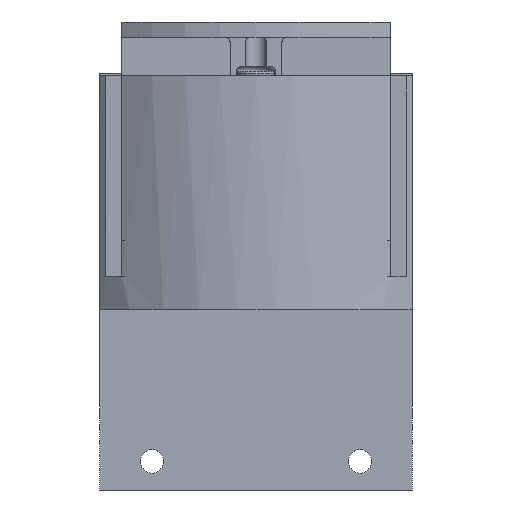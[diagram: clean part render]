
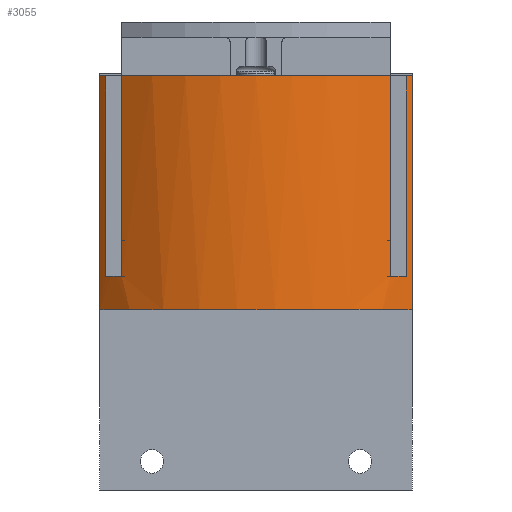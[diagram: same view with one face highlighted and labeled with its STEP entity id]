
A CAD part, front view. The second image highlights one B-rep face of the part: STEP entity #3055.
In plain terms, the highlighted cylindrical face has radius 43.5 mm (diameter 87 mm), a partial arc.
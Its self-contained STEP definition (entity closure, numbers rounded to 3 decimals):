
#184=CYLINDRICAL_SURFACE('',#3411,43.5);
#230=CIRCLE('',#3367,43.5);
#233=CIRCLE('',#3372,43.5);
#236=CIRCLE('',#3379,43.5);
#237=CIRCLE('',#3380,43.5);
#246=CIRCLE('',#3408,43.5);
#247=CIRCLE('',#3412,43.5);
#406=FACE_OUTER_BOUND('',#585,.T.);
#585=EDGE_LOOP('',(#2186,#2187,#2188,#2189,#2190,#2191,#2192,#2193,#2194,
#2195,#2196,#2197));
#777=LINE('',#4703,#1046);
#783=LINE('',#4715,#1052);
#807=LINE('',#4783,#1076);
#835=LINE('',#4859,#1104);
#836=LINE('',#4861,#1105);
#838=LINE('',#4864,#1107);
#1046=VECTOR('',#3724,10.);
#1052=VECTOR('',#3732,10.);
#1076=VECTOR('',#3790,10.);
#1104=VECTOR('',#3872,10.);
#1105=VECTOR('',#3875,10.);
#1107=VECTOR('',#3879,10.);
#1314=VERTEX_POINT('',#4699);
#1316=VERTEX_POINT('',#4702);
#1319=VERTEX_POINT('',#4709);
#1321=VERTEX_POINT('',#4713);
#1324=VERTEX_POINT('',#4721);
#1330=VERTEX_POINT('',#4738);
#1338=VERTEX_POINT('',#4758);
#1339=VERTEX_POINT('',#4760);
#1342=VERTEX_POINT('',#4767);
#1343=VERTEX_POINT('',#4769);
#1348=VERTEX_POINT('',#4781);
#1369=VERTEX_POINT('',#4855);
#1603=EDGE_CURVE('',#1316,#1314,#777,.T.);
#1609=EDGE_CURVE('',#1319,#1321,#783,.T.);
#1613=EDGE_CURVE('',#1324,#1314,#230,.T.);
#1621=EDGE_CURVE('',#1319,#1330,#233,.T.);
#1632=EDGE_CURVE('',#1339,#1338,#236,.T.);
#1637=EDGE_CURVE('',#1343,#1342,#237,.T.);
#1644=EDGE_CURVE('',#1338,#1348,#807,.T.);
#1681=EDGE_CURVE('',#1369,#1348,#246,.T.);
#1682=EDGE_CURVE('',#1324,#1339,#835,.T.);
#1683=EDGE_CURVE('',#1342,#1330,#836,.T.);
#1685=EDGE_CURVE('',#1369,#1343,#838,.T.);
#1686=EDGE_CURVE('',#1316,#1321,#247,.T.);
#2186=ORIENTED_EDGE('',*,*,#1603,.T.);
#2187=ORIENTED_EDGE('',*,*,#1613,.F.);
#2188=ORIENTED_EDGE('',*,*,#1682,.T.);
#2189=ORIENTED_EDGE('',*,*,#1632,.T.);
#2190=ORIENTED_EDGE('',*,*,#1644,.T.);
#2191=ORIENTED_EDGE('',*,*,#1681,.F.);
#2192=ORIENTED_EDGE('',*,*,#1685,.T.);
#2193=ORIENTED_EDGE('',*,*,#1637,.T.);
#2194=ORIENTED_EDGE('',*,*,#1683,.T.);
#2195=ORIENTED_EDGE('',*,*,#1621,.F.);
#2196=ORIENTED_EDGE('',*,*,#1609,.T.);
#2197=ORIENTED_EDGE('',*,*,#1686,.F.);
#3055=ADVANCED_FACE('',(#406),#184,.T.);
#3367=AXIS2_PLACEMENT_3D('',#4723,#3738,#3739);
#3372=AXIS2_PLACEMENT_3D('',#4739,#3753,#3754);
#3379=AXIS2_PLACEMENT_3D('',#4761,#3773,#3774);
#3380=AXIS2_PLACEMENT_3D('',#4770,#3779,#3780);
#3408=AXIS2_PLACEMENT_3D('',#4857,#3868,#3869);
#3411=AXIS2_PLACEMENT_3D('',#4863,#3877,#3878);
#3412=AXIS2_PLACEMENT_3D('',#4865,#3880,#3881);
#3724=DIRECTION('',(0.,0.,-1.));
#3732=DIRECTION('',(0.,0.,1.));
#3738=DIRECTION('center_axis',(0.,0.,-1.));
#3739=DIRECTION('ref_axis',(0.702,0.713,0.));
#3753=DIRECTION('center_axis',(0.,0.,-1.));
#3754=DIRECTION('ref_axis',(0.702,0.713,0.));
#3773=DIRECTION('center_axis',(0.,0.,1.));
#3774=DIRECTION('ref_axis',(0.702,0.713,0.));
#3779=DIRECTION('center_axis',(0.,0.,1.));
#3780=DIRECTION('ref_axis',(0.702,0.713,0.));
#3790=DIRECTION('',(0.,0.,-1.));
#3868=DIRECTION('center_axis',(0.,0.,-1.));
#3869=DIRECTION('ref_axis',(0.702,0.713,0.));
#3872=DIRECTION('',(0.,0.,1.));
#3875=DIRECTION('',(0.,0.,-1.));
#3877=DIRECTION('center_axis',(0.,0.,1.));
#3878=DIRECTION('ref_axis',(0.702,0.713,0.));
#3879=DIRECTION('',(0.,0.,1.));
#3880=DIRECTION('center_axis',(0.,0.,1.));
#3881=DIRECTION('ref_axis',(0.702,0.713,0.));
#4699=CARTESIAN_POINT('',(30.016,0.484,-22.5));
#4702=CARTESIAN_POINT('',(30.016,0.484,22.5));
#4703=CARTESIAN_POINT('',(30.016,0.484,0.));
#4709=CARTESIAN_POINT('',(-30.016,0.484,-22.5));
#4713=CARTESIAN_POINT('',(-30.016,0.484,22.5));
#4715=CARTESIAN_POINT('',(-30.016,0.484,0.));
#4721=CARTESIAN_POINT('',(28.914,1.5,-22.5));
#4723=CARTESIAN_POINT('Origin',(0.,-31.,-22.5));
#4738=CARTESIAN_POINT('',(-28.914,1.5,-22.5));
#4739=CARTESIAN_POINT('Origin',(0.,-31.,-22.5));
#4758=CARTESIAN_POINT('',(25.831,4.,16.));
#4760=CARTESIAN_POINT('',(28.914,1.5,16.));
#4761=CARTESIAN_POINT('Origin',(0.,-31.,16.));
#4767=CARTESIAN_POINT('',(-28.914,1.5,16.));
#4769=CARTESIAN_POINT('',(-25.831,4.,16.));
#4770=CARTESIAN_POINT('Origin',(0.,-31.,16.));
#4781=CARTESIAN_POINT('',(25.831,4.,-22.5));
#4783=CARTESIAN_POINT('',(25.831,4.,0.));
#4855=CARTESIAN_POINT('',(-25.831,4.,-22.5));
#4857=CARTESIAN_POINT('Origin',(0.,-31.,-22.5));
#4859=CARTESIAN_POINT('',(28.914,1.5,0.));
#4861=CARTESIAN_POINT('',(-28.914,1.5,0.));
#4863=CARTESIAN_POINT('Origin',(0.,-31.,0.));
#4864=CARTESIAN_POINT('',(-25.831,4.,0.));
#4865=CARTESIAN_POINT('Origin',(0.,-31.,22.5));
